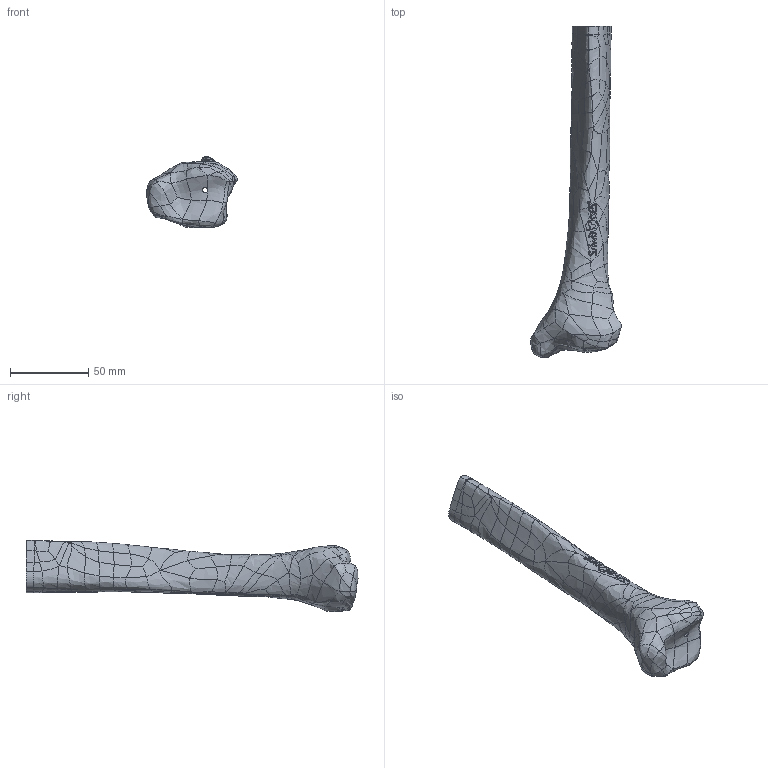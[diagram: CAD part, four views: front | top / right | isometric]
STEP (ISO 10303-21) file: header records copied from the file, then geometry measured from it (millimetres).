
FILE_DESCRIPTION (( 'STEP AP203' ), '1' );
FILE_NAME ('1125-4.STEP', '2026-07-27T19:26:11', ( '' ), ( '' ), 'SwSTEP 2.0', 'SolidWorks 2024', '' );
FILE_SCHEMA (( 'CONFIG_CONTROL_DESIGN' ));
Length unit declared in the file: millimetre
Products named in the file (1): 1125-4
Bounding box: 58.1 x 212.74 x 45.55 mm (x, y, z)
Volume: 119774.8 mm3; surface area: 30445.2 mm2
Topology: 1 solids, 1 shells, 549 faces, 1283 edges, 745 vertices
Faces by surface type: bspline 541, cylinder 4, cone 2, plane 2
Entity records: 45285 total; most frequent: CARTESIAN_POINT 37016, ORIENTED_EDGE 2566, EDGE_CURVE 1283, B_SPLINE_CURVE_WITH_KNOTS 1254, VERTEX_POINT 745, EDGE_LOOP 560, ADVANCED_FACE 549, FACE_OUTER_BOUND 549
